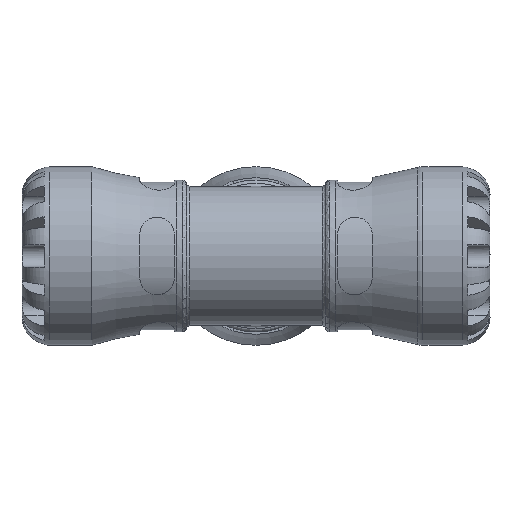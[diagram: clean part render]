
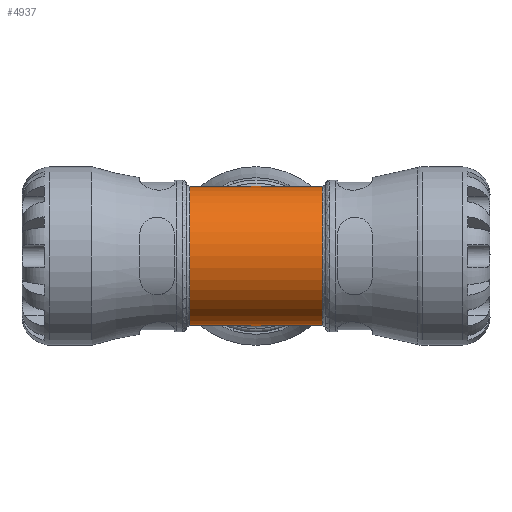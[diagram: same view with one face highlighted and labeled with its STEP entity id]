
A CAD part, front view. The second image highlights one B-rep face of the part: STEP entity #4937.
In plain terms, the highlighted cylindrical face has radius 22.62 mm (diameter 45.24 mm), a partial arc.
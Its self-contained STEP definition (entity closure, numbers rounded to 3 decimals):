
#932=CYLINDRICAL_SURFACE('',#5393,22.62);
#1419=FACE_OUTER_BOUND('',#1738,.T.);
#1738=EDGE_LOOP('',(#4159,#4160,#4161,#4162,#4163,#4164));
#1879=ELLIPSE('',#5060,32.402,22.62);
#1882=ELLIPSE('',#5065,32.402,22.62);
#1884=ELLIPSE('',#5069,32.402,22.62);
#1885=ELLIPSE('',#5071,32.402,22.62);
#1901=CIRCLE('',#5082,22.62);
#1983=CIRCLE('',#5264,22.62);
#2144=VERTEX_POINT('',#6993);
#2145=VERTEX_POINT('',#6995);
#2148=VERTEX_POINT('',#7112);
#2152=VERTEX_POINT('',#7267);
#2154=VERTEX_POINT('',#7270);
#2156=VERTEX_POINT('',#7304);
#2602=EDGE_CURVE('',#2144,#2145,#1879,.T.);
#2609=EDGE_CURVE('',#2145,#2148,#1882,.T.);
#2615=EDGE_CURVE('',#2154,#2152,#1884,.T.);
#2617=EDGE_CURVE('',#2156,#2154,#1885,.T.);
#2633=EDGE_CURVE('',#2152,#2144,#1901,.T.);
#2869=EDGE_CURVE('',#2148,#2156,#1983,.T.);
#4159=ORIENTED_EDGE('',*,*,#2602,.F.);
#4160=ORIENTED_EDGE('',*,*,#2633,.F.);
#4161=ORIENTED_EDGE('',*,*,#2615,.F.);
#4162=ORIENTED_EDGE('',*,*,#2617,.F.);
#4163=ORIENTED_EDGE('',*,*,#2869,.F.);
#4164=ORIENTED_EDGE('',*,*,#2609,.F.);
#4937=ADVANCED_FACE('',(#1419),#932,.T.);
#5060=AXIS2_PLACEMENT_3D('',#6996,#5615,#5616);
#5065=AXIS2_PLACEMENT_3D('',#7116,#5625,#5626);
#5069=AXIS2_PLACEMENT_3D('',#7272,#5633,#5634);
#5071=AXIS2_PLACEMENT_3D('',#7306,#5637,#5638);
#5082=AXIS2_PLACEMENT_3D('',#7665,#5659,#5660);
#5264=AXIS2_PLACEMENT_3D('',#9142,#6107,#6108);
#5393=AXIS2_PLACEMENT_3D('',#10131,#6429,#6430);
#5615=DIRECTION('center_axis',(-0.698,0.716,0.));
#5616=DIRECTION('ref_axis',(0.716,0.698,0.));
#5625=DIRECTION('center_axis',(0.698,0.716,0.));
#5626=DIRECTION('ref_axis',(-0.716,0.698,0.));
#5633=DIRECTION('center_axis',(-0.698,0.716,0.));
#5634=DIRECTION('ref_axis',(0.716,0.698,0.));
#5637=DIRECTION('center_axis',(0.698,0.716,0.));
#5638=DIRECTION('ref_axis',(-0.716,0.698,0.));
#5659=DIRECTION('center_axis',(1.,0.,0.));
#5660=DIRECTION('ref_axis',(0.,1.,0.));
#6107=DIRECTION('center_axis',(-1.,0.,0.));
#6108=DIRECTION('ref_axis',(0.,1.,0.));
#6429=DIRECTION('center_axis',(1.,0.,0.));
#6430=DIRECTION('ref_axis',(0.,1.,0.));
#6993=CARTESIAN_POINT('',(21.478,20.941,-8.552));
#6995=CARTESIAN_POINT('',(0.,0.,-22.62));
#6996=CARTESIAN_POINT('Origin',(0.,0.,0.));
#7112=CARTESIAN_POINT('',(-21.478,20.941,-8.552));
#7116=CARTESIAN_POINT('Origin',(0.,0.,0.));
#7267=CARTESIAN_POINT('',(21.478,20.941,8.552));
#7270=CARTESIAN_POINT('',(0.,0.,22.62));
#7272=CARTESIAN_POINT('Origin',(0.,0.,0.));
#7304=CARTESIAN_POINT('',(-21.478,20.941,8.552));
#7306=CARTESIAN_POINT('Origin',(0.,0.,0.));
#7665=CARTESIAN_POINT('Origin',(21.478,0.,0.));
#9142=CARTESIAN_POINT('Origin',(-21.478,0.,0.));
#10131=CARTESIAN_POINT('Origin',(11.31,0.,0.));
